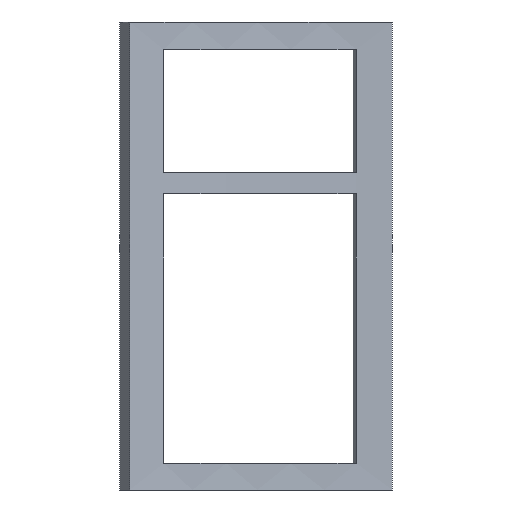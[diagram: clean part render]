
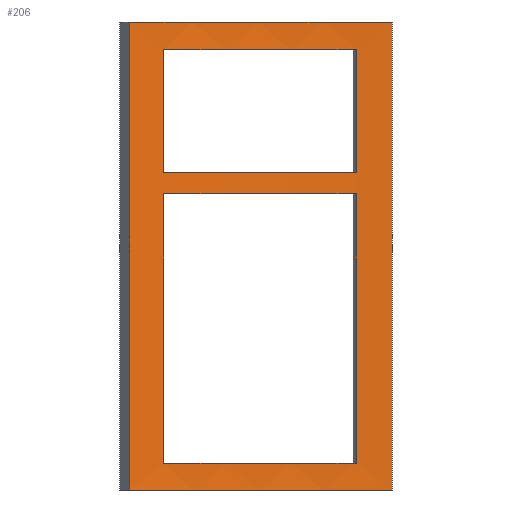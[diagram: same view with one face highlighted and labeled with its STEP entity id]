
A CAD part, front view. The second image highlights one B-rep face of the part: STEP entity #206.
In plain terms, the highlighted cylindrical face has radius 9.5 mm (diameter 19 mm), a partial arc.
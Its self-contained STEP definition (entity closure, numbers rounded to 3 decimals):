
#22 = VERTEX_POINT('',#23);
#23 = CARTESIAN_POINT('',(-1.419,9.393,-2.65));
#31 = EDGE_CURVE('',#22,#32,#34,.T.);
#32 = VERTEX_POINT('',#33);
#33 = CARTESIAN_POINT('',(-1.419,9.393,2.65));
#34 = LINE('',#35,#36);
#35 = CARTESIAN_POINT('',(-1.419,9.393,-10.));
#36 = VECTOR('',#37,1.);
#37 = DIRECTION('',(0.,0.,1.));
#62 = VERTEX_POINT('',#63);
#63 = CARTESIAN_POINT('',(-4.395,8.422,-2.65));
#71 = EDGE_CURVE('',#22,#62,#72,.T.);
#72 = CIRCLE('',#73,9.5);
#73 = AXIS2_PLACEMENT_3D('',#74,#75,#76);
#74 = CARTESIAN_POINT('',(0.,0.,-2.65));
#75 = DIRECTION('',(0.,0.,1.));
#76 = DIRECTION('',(1.,0.,0.));
#186 = VERTEX_POINT('',#187);
#187 = CARTESIAN_POINT('',(-4.395,8.422,2.65));
#193 = EDGE_CURVE('',#32,#186,#194,.T.);
#194 = CIRCLE('',#195,9.5);
#195 = AXIS2_PLACEMENT_3D('',#196,#197,#198);
#196 = CARTESIAN_POINT('',(0.,0.,2.65));
#197 = DIRECTION('',(0.,0.,1.));
#198 = DIRECTION('',(1.,0.,0.));
#206 = ADVANCED_FACE('',(#207,#218,#254),#290,.F.);
#207 = FACE_BOUND('',#208,.F.);
#208 = EDGE_LOOP('',(#209,#210,#211,#217));
#209 = ORIENTED_EDGE('',*,*,#31,.F.);
#210 = ORIENTED_EDGE('',*,*,#71,.T.);
#211 = ORIENTED_EDGE('',*,*,#212,.T.);
#212 = EDGE_CURVE('',#62,#186,#213,.T.);
#213 = LINE('',#214,#215);
#214 = CARTESIAN_POINT('',(-4.395,8.422,-10.));
#215 = VECTOR('',#216,1.);
#216 = DIRECTION('',(0.,0.,1.));
#217 = ORIENTED_EDGE('',*,*,#193,.F.);
#218 = FACE_BOUND('',#219,.F.);
#219 = EDGE_LOOP('',(#220,#231,#239,#248));
#220 = ORIENTED_EDGE('',*,*,#221,.F.);
#221 = EDGE_CURVE('',#222,#224,#226,.T.);
#222 = VERTEX_POINT('',#223);
#223 = CARTESIAN_POINT('',(-1.828,9.322,-2.347));
#224 = VERTEX_POINT('',#225);
#225 = CARTESIAN_POINT('',(-4.008,8.613,-2.347));
#226 = CIRCLE('',#227,9.5);
#227 = AXIS2_PLACEMENT_3D('',#228,#229,#230);
#228 = CARTESIAN_POINT('',(0.,0.,-2.347));
#229 = DIRECTION('',(0.,0.,1.));
#230 = DIRECTION('',(1.,0.,0.));
#231 = ORIENTED_EDGE('',*,*,#232,.T.);
#232 = EDGE_CURVE('',#222,#233,#235,.T.);
#233 = VERTEX_POINT('',#234);
#234 = CARTESIAN_POINT('',(-1.828,9.322,0.703));
#235 = LINE('',#236,#237);
#236 = CARTESIAN_POINT('',(-1.828,9.322,-10.));
#237 = VECTOR('',#238,1.);
#238 = DIRECTION('',(0.,0.,1.));
#239 = ORIENTED_EDGE('',*,*,#240,.T.);
#240 = EDGE_CURVE('',#233,#241,#243,.T.);
#241 = VERTEX_POINT('',#242);
#242 = CARTESIAN_POINT('',(-4.008,8.613,0.703));
#243 = CIRCLE('',#244,9.5);
#244 = AXIS2_PLACEMENT_3D('',#245,#246,#247);
#245 = CARTESIAN_POINT('',(0.,0.,0.703));
#246 = DIRECTION('',(0.,0.,1.));
#247 = DIRECTION('',(1.,0.,0.));
#248 = ORIENTED_EDGE('',*,*,#249,.F.);
#249 = EDGE_CURVE('',#224,#241,#250,.T.);
#250 = LINE('',#251,#252);
#251 = CARTESIAN_POINT('',(-4.008,8.613,-10.));
#252 = VECTOR('',#253,1.);
#253 = DIRECTION('',(0.,0.,1.));
#254 = FACE_BOUND('',#255,.F.);
#255 = EDGE_LOOP('',(#256,#267,#275,#284));
#256 = ORIENTED_EDGE('',*,*,#257,.F.);
#257 = EDGE_CURVE('',#258,#260,#262,.T.);
#258 = VERTEX_POINT('',#259);
#259 = CARTESIAN_POINT('',(-1.828,9.322,0.943));
#260 = VERTEX_POINT('',#261);
#261 = CARTESIAN_POINT('',(-4.008,8.613,0.943));
#262 = CIRCLE('',#263,9.5);
#263 = AXIS2_PLACEMENT_3D('',#264,#265,#266);
#264 = CARTESIAN_POINT('',(0.,0.,0.943));
#265 = DIRECTION('',(0.,0.,1.));
#266 = DIRECTION('',(1.,0.,0.));
#267 = ORIENTED_EDGE('',*,*,#268,.T.);
#268 = EDGE_CURVE('',#258,#269,#271,.T.);
#269 = VERTEX_POINT('',#270);
#270 = CARTESIAN_POINT('',(-1.828,9.322,2.337));
#271 = LINE('',#272,#273);
#272 = CARTESIAN_POINT('',(-1.828,9.322,-10.));
#273 = VECTOR('',#274,1.);
#274 = DIRECTION('',(0.,0.,1.));
#275 = ORIENTED_EDGE('',*,*,#276,.T.);
#276 = EDGE_CURVE('',#269,#277,#279,.T.);
#277 = VERTEX_POINT('',#278);
#278 = CARTESIAN_POINT('',(-4.008,8.613,2.337));
#279 = CIRCLE('',#280,9.5);
#280 = AXIS2_PLACEMENT_3D('',#281,#282,#283);
#281 = CARTESIAN_POINT('',(0.,0.,2.337));
#282 = DIRECTION('',(0.,0.,1.));
#283 = DIRECTION('',(1.,0.,0.));
#284 = ORIENTED_EDGE('',*,*,#285,.F.);
#285 = EDGE_CURVE('',#260,#277,#286,.T.);
#286 = LINE('',#287,#288);
#287 = CARTESIAN_POINT('',(-4.008,8.613,-10.));
#288 = VECTOR('',#289,1.);
#289 = DIRECTION('',(0.,0.,1.));
#290 = CYLINDRICAL_SURFACE('',#291,9.5);
#291 = AXIS2_PLACEMENT_3D('',#292,#293,#294);
#292 = CARTESIAN_POINT('',(0.,0.,-10.));
#293 = DIRECTION('',(0.,0.,1.));
#294 = DIRECTION('',(1.,0.,0.));
